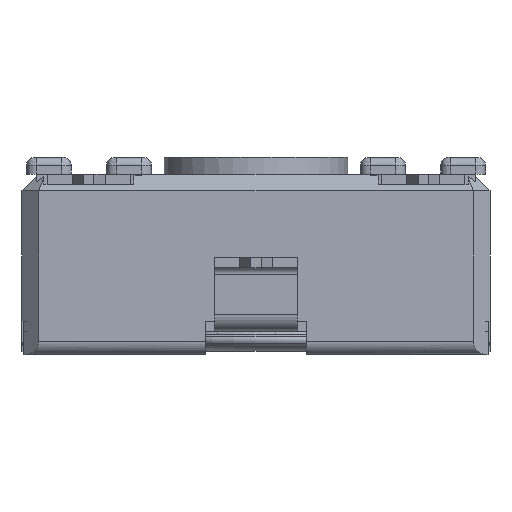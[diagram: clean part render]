
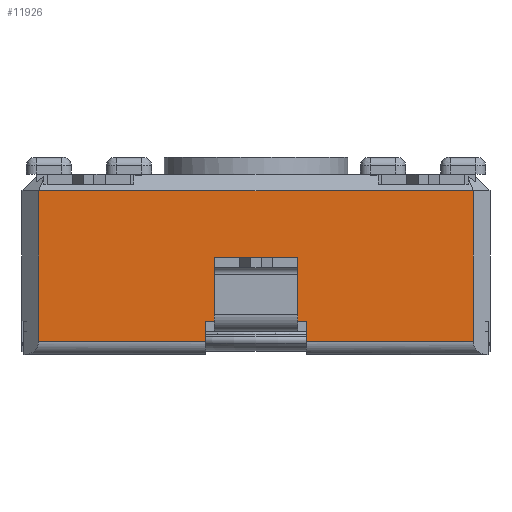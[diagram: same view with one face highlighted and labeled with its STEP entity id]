
A CAD part, front view. The second image highlights one B-rep face of the part: STEP entity #11926.
In plain terms, the highlighted planar face has unit normal (0, -1, 0).
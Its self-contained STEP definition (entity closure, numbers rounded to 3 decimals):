
#684=FACE_OUTER_BOUND('',#1284,.T.);
#1284=EDGE_LOOP('',(#9530,#9531,#9532,#9533,#9534,#9535,#9536,#9537,#9538,
#9539));
#1882=LINE('',#16353,#3137);
#2024=LINE('',#16687,#3279);
#2527=LINE('',#18098,#3782);
#2535=LINE('',#18115,#3790);
#2551=LINE('',#18155,#3806);
#2552=LINE('',#18160,#3807);
#2822=LINE('',#18934,#4077);
#2832=LINE('',#18952,#4087);
#2849=LINE('',#18996,#4104);
#2853=LINE('',#19002,#4108);
#3137=VECTOR('',#13144,10.);
#3279=VECTOR('',#13438,10.);
#3782=VECTOR('',#14611,10.);
#3790=VECTOR('',#14623,10.);
#3806=VECTOR('',#14659,10.);
#3807=VECTOR('',#14666,10.);
#4077=VECTOR('',#15380,10.);
#4087=VECTOR('',#15400,10.);
#4104=VECTOR('',#15441,10.);
#4108=VECTOR('',#15449,10.);
#4403=VERTEX_POINT('',#16351);
#4404=VERTEX_POINT('',#16352);
#4520=VERTEX_POINT('',#16686);
#4948=VERTEX_POINT('',#18095);
#4949=VERTEX_POINT('',#18097);
#4956=VERTEX_POINT('',#18113);
#4970=VERTEX_POINT('',#18154);
#4971=VERTEX_POINT('',#18158);
#5221=VERTEX_POINT('',#18933);
#5229=VERTEX_POINT('',#18994);
#5491=EDGE_CURVE('',#4403,#4404,#1882,.T.);
#5664=EDGE_CURVE('',#4520,#4403,#2024,.T.);
#6308=EDGE_CURVE('',#4948,#4949,#2527,.T.);
#6317=EDGE_CURVE('',#4948,#4956,#2535,.T.);
#6337=EDGE_CURVE('',#4520,#4970,#2551,.T.);
#6340=EDGE_CURVE('',#4970,#4971,#2552,.T.);
#6717=EDGE_CURVE('',#5221,#4949,#2822,.T.);
#6727=EDGE_CURVE('',#4404,#5221,#2832,.T.);
#6745=EDGE_CURVE('',#5229,#4956,#2849,.T.);
#6749=EDGE_CURVE('',#4971,#5229,#2853,.T.);
#9530=ORIENTED_EDGE('',*,*,#6308,.F.);
#9531=ORIENTED_EDGE('',*,*,#6317,.T.);
#9532=ORIENTED_EDGE('',*,*,#6745,.F.);
#9533=ORIENTED_EDGE('',*,*,#6749,.F.);
#9534=ORIENTED_EDGE('',*,*,#6340,.F.);
#9535=ORIENTED_EDGE('',*,*,#6337,.F.);
#9536=ORIENTED_EDGE('',*,*,#5664,.T.);
#9537=ORIENTED_EDGE('',*,*,#5491,.T.);
#9538=ORIENTED_EDGE('',*,*,#6727,.T.);
#9539=ORIENTED_EDGE('',*,*,#6717,.T.);
#10813=PLANE('',#12805);
#11926=ADVANCED_FACE('',(#684),#10813,.T.);
#12805=AXIS2_PLACEMENT_3D('',#19001,#15447,#15448);
#13144=DIRECTION('',(1.,0.,0.));
#13438=DIRECTION('',(1.,0.,0.));
#14611=DIRECTION('',(-1.,0.,0.));
#14623=DIRECTION('',(0.,0.,1.));
#14659=DIRECTION('',(0.,0.,-1.));
#14666=DIRECTION('',(-1.,0.,0.));
#15380=DIRECTION('',(0.,0.,-1.));
#15400=DIRECTION('',(1.,0.,0.));
#15441=DIRECTION('',(1.,0.,0.));
#15447=DIRECTION('center_axis',(0.,-1.,0.));
#15448=DIRECTION('ref_axis',(1.,0.,0.));
#15449=DIRECTION('',(0.,0.,1.));
#16351=CARTESIAN_POINT('',(-11.405,0.3,0.));
#16352=CARTESIAN_POINT('',(-8.905,0.3,0.));
#16353=CARTESIAN_POINT('',(-16.655,0.3,0.));
#16686=CARTESIAN_POINT('',(-11.655,0.3,0.));
#16687=CARTESIAN_POINT('',(-16.655,0.3,0.));
#18095=CARTESIAN_POINT('',(-3.655,0.3,-0.6));
#18097=CARTESIAN_POINT('',(-8.655,0.3,-0.6));
#18098=CARTESIAN_POINT('',(-11.325,0.3,-0.6));
#18113=CARTESIAN_POINT('',(-3.655,0.3,3.9));
#18115=CARTESIAN_POINT('',(-3.655,0.3,0.));
#18154=CARTESIAN_POINT('',(-11.655,0.3,-0.6));
#18155=CARTESIAN_POINT('',(-11.655,0.3,-0.3));
#18158=CARTESIAN_POINT('',(-16.655,0.3,-0.6));
#18160=CARTESIAN_POINT('',(-15.484,0.3,-0.6));
#18933=CARTESIAN_POINT('',(-8.655,0.3,0.));
#18934=CARTESIAN_POINT('',(-8.655,0.3,0.));
#18952=CARTESIAN_POINT('',(-16.655,0.3,0.));
#18994=CARTESIAN_POINT('',(-16.655,0.3,3.9));
#18996=CARTESIAN_POINT('',(-13.405,0.3,3.9));
#19001=CARTESIAN_POINT('Origin',(-16.655,0.3,0.));
#19002=CARTESIAN_POINT('',(-16.655,0.3,0.));
